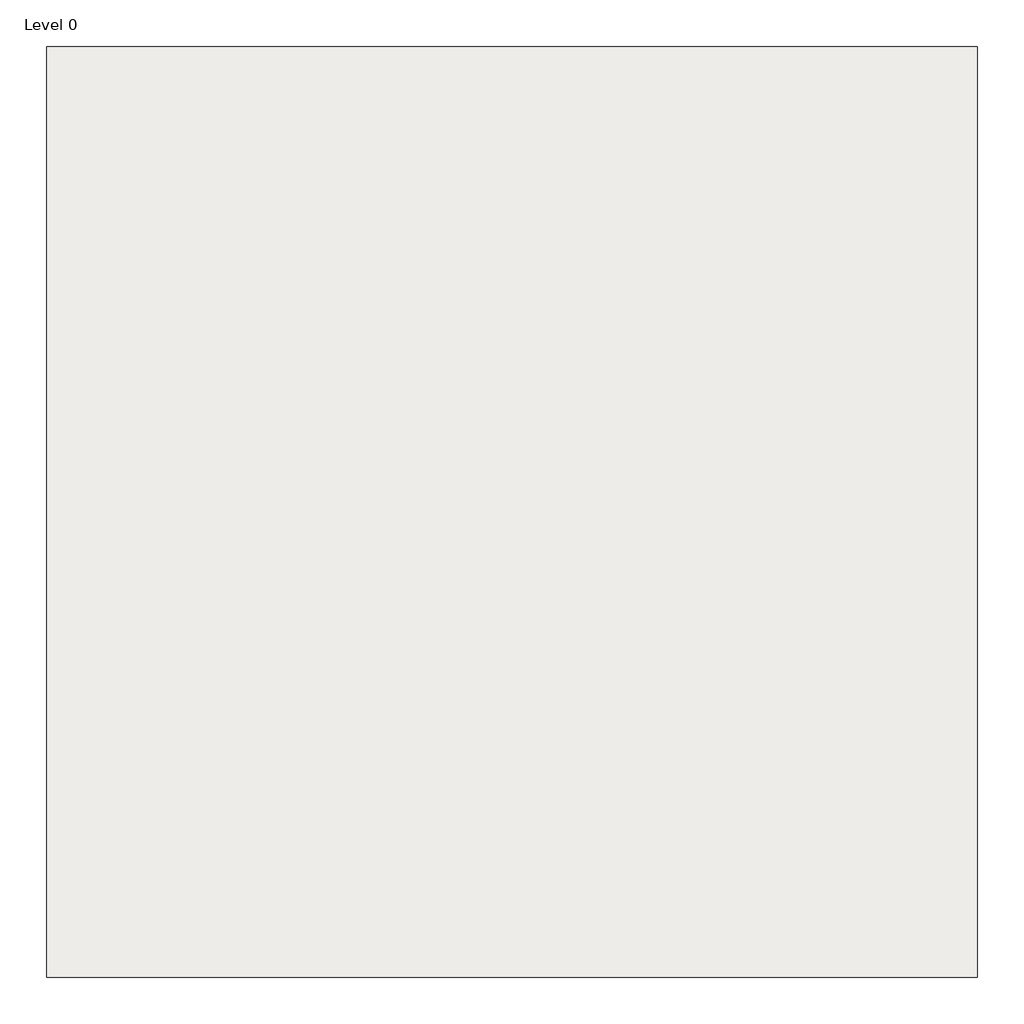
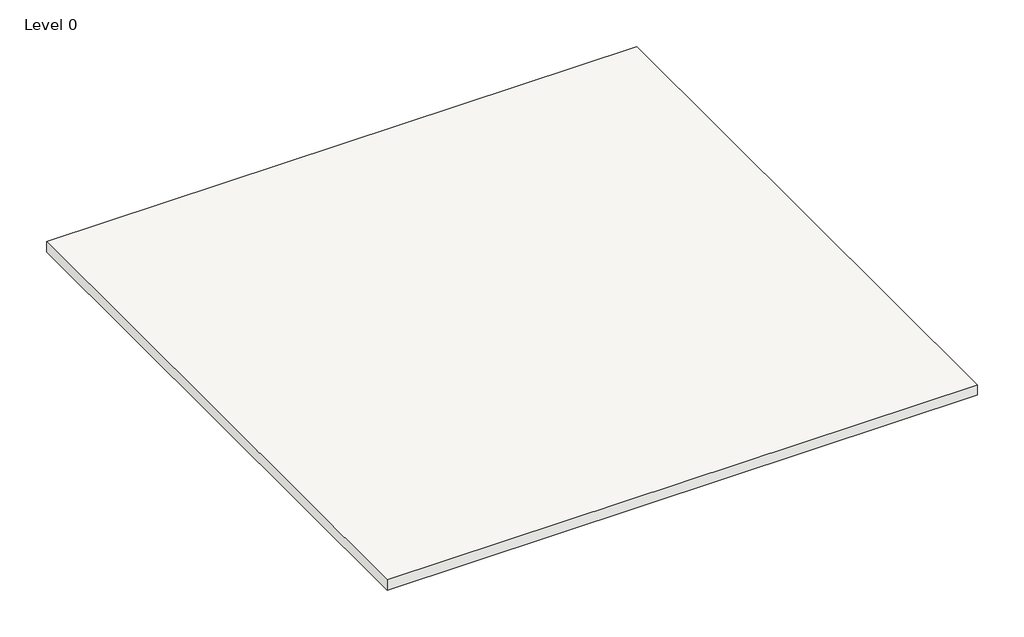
# One storey: 1 slab.
"""IFC4 building model written with IfcOpenShell, lengths in millimetres."""

from ifc_helpers import new_model, si_unit, origin, origin_with_axes, place, context, project, spatial, polyline, outline, extrude, element, save

model = new_model("IFC4")

# Units and contexts
model_context = context("Model", 3, world=origin())
ifc_project = project(units=[si_unit("LENGTHUNIT", "METRE", prefix="MILLI")], contexts=[model_context])

# Site, building, storey
site = spatial("IfcSite", under=ifc_project)
building = spatial("IfcBuilding", under=site)
storey = spatial("IfcBuildingStorey", under=building, Name="Level 0", Elevation=0.0)

# Slab
placement = place(None, origin())
element("IfcSlab", 1, ObjectType="NBS_IKOPLC_ReinforcedBitumenMembraneWarmRoofCoveringSystems_IKOUltraPeventRoofingSystems", at=placement, inside=storey, context=model_context, shape_type="SweptSolid", body=[
    extrude(outline(polyline([(0.0, -2500.0), (0.0, 0.0), (2500.0, 0.0), (2500.0, -2500.0), (0.0, -2500.0)])), origin_with_axes(), (0.0, 0.0, 1.0), 46.4),
])

save(model, "model.ifc")
